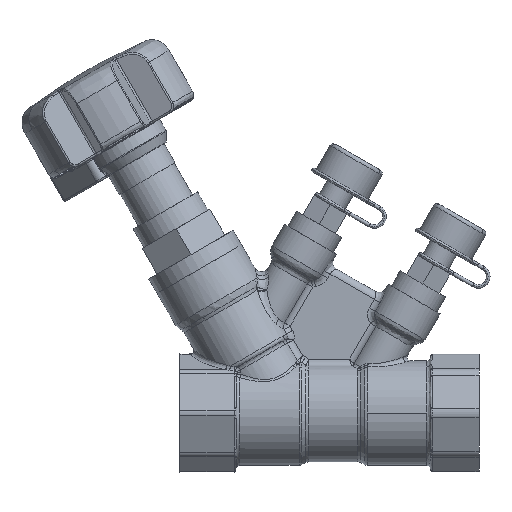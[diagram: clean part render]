
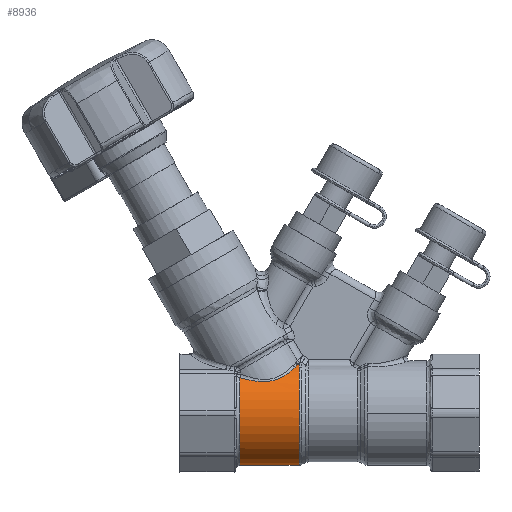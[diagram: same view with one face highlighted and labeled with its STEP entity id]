
A CAD part, left-side view. The second image highlights one B-rep face of the part: STEP entity #8936.
In plain terms, the highlighted cylindrical face has radius 14 mm (diameter 28 mm), a partial arc.
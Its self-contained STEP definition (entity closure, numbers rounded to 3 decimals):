
#1501 = ORIENTED_EDGE ( 'NONE', *, *, #33289, .T. ) ;
#2157 = CARTESIAN_POINT ( 'NONE',  ( -11.216, 56.946, 8.379 ) ) ;
#2591 = CARTESIAN_POINT ( 'NONE',  ( -6.457, 48.932, 12.426 ) ) ;
#2725 = CARTESIAN_POINT ( 'NONE',  ( -5.37, 48.413, 12.929 ) ) ;
#2807 = AXIS2_PLACEMENT_3D ( 'NONE', #35132, #31795, #16026 ) ;
#3754 = CIRCLE ( 'NONE', #15660, 14. ) ;
#4248 = CARTESIAN_POINT ( 'NONE',  ( 0., 48.134, 0. ) ) ;
#4896 = ORIENTED_EDGE ( 'NONE', *, *, #40061, .T. ) ;
#5321 = CARTESIAN_POINT ( 'NONE',  ( -10.578, 53.497, 9.186 ) ) ;
#6035 = CARTESIAN_POINT ( 'NONE',  ( -5.37, 48.413, 12.929 ) ) ;
#6283 = ORIENTED_EDGE ( 'NONE', *, *, #18026, .F. ) ;
#7443 = DIRECTION ( 'NONE',  ( -0.479, 0., 0.878 ) ) ;
#8120 = EDGE_LOOP ( 'NONE', ( #19000, #1501, #6283, #4896, #16794, #23539, #16220 ) ) ;
#8534 = CARTESIAN_POINT ( 'NONE',  ( -9.436, 51.362, 10.389 ) ) ;
#8846 = CARTESIAN_POINT ( 'NONE',  ( -5.131, 48.313, 13.028 ) ) ;
#8936 = ADVANCED_FACE ( 'NONE', ( #30244 ), #37732, .T. ) ;
#8970 = CARTESIAN_POINT ( 'NONE',  ( -6.712, 49.082, 12.286 ) ) ;
#9531 = VERTEX_POINT ( 'NONE', #13286 ) ;
#10174 = CIRCLE ( 'NONE', #15462, 14. ) ;
#10222 = CARTESIAN_POINT ( 'NONE',  ( 0., 64., -14. ) ) ;
#11748 = CARTESIAN_POINT ( 'NONE',  ( -7.873, 49.833, 11.604 ) ) ;
#12024 = EDGE_CURVE ( 'NONE', #37049, #35592, #3754, .T. ) ;
#12865 = B_SPLINE_CURVE_WITH_KNOTS ( 'NONE', 5,
 ( #30718, #33908, #37124, #18029, #40356, #21226, #2157, #24433, #5321, #27617, #8534, #30852, #11748, #34051, #14946 ),
 .UNSPECIFIED., .F., .F.,
 ( 6, 3, 3, 3, 6 ),
 ( 0., 0.272, 0.509, 0.779, 1. ),
 .UNSPECIFIED. ) ;
#13245 = CARTESIAN_POINT ( 'NONE',  ( -4.639, 48.134, 13.209 ) ) ;
#13286 = CARTESIAN_POINT ( 'NONE',  ( -6.712, 48.134, 12.286 ) ) ;
#14460 = LINE ( 'NONE', #26736, #21958 ) ;
#14514 = CIRCLE ( 'NONE', #28521, 14. ) ;
#14946 = CARTESIAN_POINT ( 'NONE',  ( -6.712, 49.082, 12.286 ) ) ;
#15000 = B_SPLINE_CURVE_WITH_KNOTS ( 'NONE', 5,
 ( #8970, #2591, #18618, #40929, #21809, #2725 ),
 .UNSPECIFIED., .F., .F.,
 ( 6, 6 ),
 ( 0., 1. ),
 .UNSPECIFIED. ) ;
#15462 = AXIS2_PLACEMENT_3D ( 'NONE', #35085, #15975, #38315 ) ;
#15660 = AXIS2_PLACEMENT_3D ( 'NONE', #18876, #41199, #22073 ) ;
#15975 = DIRECTION ( 'NONE',  ( 0., 1., 0. ) ) ;
#15976 = CARTESIAN_POINT ( 'NONE',  ( -6.712, 49.082, 12.286 ) ) ;
#16026 = DIRECTION ( 'NONE',  ( 0., 0., -1. ) ) ;
#16220 = ORIENTED_EDGE ( 'NONE', *, *, #27431, .F. ) ;
#16794 = ORIENTED_EDGE ( 'NONE', *, *, #17904, .F. ) ;
#17904 = EDGE_CURVE ( 'NONE', #33464, #38264, #39315, .T. ) ;
#18026 = EDGE_CURVE ( 'NONE', #9531, #24209, #14514, .T. ) ;
#18029 = CARTESIAN_POINT ( 'NONE',  ( -10.904, 61.327, 8.785 ) ) ;
#18618 = CARTESIAN_POINT ( 'NONE',  ( -6.195, 48.79, 12.56 ) ) ;
#18876 = CARTESIAN_POINT ( 'NONE',  ( 0., 64., 0. ) ) ;
#18888 = CARTESIAN_POINT ( 'NONE',  ( -4.888, 48.22, 13.122 ) ) ;
#19000 = ORIENTED_EDGE ( 'NONE', *, *, #12024, .F. ) ;
#21226 = CARTESIAN_POINT ( 'NONE',  ( -11.229, 57.79, 8.361 ) ) ;
#21809 = CARTESIAN_POINT ( 'NONE',  ( -5.651, 48.53, 12.813 ) ) ;
#21958 = VECTOR ( 'NONE', #29964, 1000. ) ;
#22073 = DIRECTION ( 'NONE',  ( -0.479, 0., 0.878 ) ) ;
#23539 = ORIENTED_EDGE ( 'NONE', *, *, #34163, .F. ) ;
#24209 = VERTEX_POINT ( 'NONE', #26742 ) ;
#24433 = CARTESIAN_POINT ( 'NONE',  ( -11.053, 55.152, 8.602 ) ) ;
#26538 = DIRECTION ( 'NONE',  ( 0., -1., 0. ) ) ;
#26736 = CARTESIAN_POINT ( 'NONE',  ( 0., 64., -14. ) ) ;
#26742 = CARTESIAN_POINT ( 'NONE',  ( 0., 48.134, -14. ) ) ;
#27431 = EDGE_CURVE ( 'NONE', #35592, #33685, #12865, .T. ) ;
#27617 = CARTESIAN_POINT ( 'NONE',  ( -10.227, 52.689, 9.588 ) ) ;
#27710 = CARTESIAN_POINT ( 'NONE',  ( -5.37, 48.413, 12.929 ) ) ;
#28521 = AXIS2_PLACEMENT_3D ( 'NONE', #4248, #26538, #7443 ) ;
#29964 = DIRECTION ( 'NONE',  ( 0., -1., 0. ) ) ;
#30244 = FACE_OUTER_BOUND ( 'NONE', #8120, .T. ) ;
#30718 = CARTESIAN_POINT ( 'NONE',  ( -10.267, 64., 9.518 ) ) ;
#30852 = CARTESIAN_POINT ( 'NONE',  ( -8.392, 50.276, 11.232 ) ) ;
#31795 = DIRECTION ( 'NONE',  ( 0., -1., 0. ) ) ;
#33289 = EDGE_CURVE ( 'NONE', #37049, #24209, #14460, .T. ) ;
#33464 = VERTEX_POINT ( 'NONE', #27710 ) ;
#33685 = VERTEX_POINT ( 'NONE', #15976 ) ;
#33908 = CARTESIAN_POINT ( 'NONE',  ( -10.515, 63.128, 9.25 ) ) ;
#34045 = CARTESIAN_POINT ( 'NONE',  ( -10.267, 64., 9.518 ) ) ;
#34051 = CARTESIAN_POINT ( 'NONE',  ( -7.312, 49.435, 11.958 ) ) ;
#34163 = EDGE_CURVE ( 'NONE', #33685, #33464, #15000, .T. ) ;
#35085 = CARTESIAN_POINT ( 'NONE',  ( 0., 48.134, 0. ) ) ;
#35132 = CARTESIAN_POINT ( 'NONE',  ( 0., 64., 0. ) ) ;
#35592 = VERTEX_POINT ( 'NONE', #34045 ) ;
#37049 = VERTEX_POINT ( 'NONE', #10222 ) ;
#37124 = CARTESIAN_POINT ( 'NONE',  ( -10.728, 62.238, 9.003 ) ) ;
#37732 = CYLINDRICAL_SURFACE ( 'NONE', #2807, 14. ) ;
#38264 = VERTEX_POINT ( 'NONE', #13245 ) ;
#38315 = DIRECTION ( 'NONE',  ( -0.479, 0., 0.878 ) ) ;
#39315 = B_SPLINE_CURVE_WITH_KNOTS ( 'NONE', 3,
 ( #6035, #8846, #18888, #41212 ),
 .UNSPECIFIED., .F., .F.,
 ( 4, 4 ),
 ( 0., 1. ),
 .UNSPECIFIED. ) ;
#40061 = EDGE_CURVE ( 'NONE', #9531, #38264, #10174, .T. ) ;
#40356 = CARTESIAN_POINT ( 'NONE',  ( -11.158, 59.589, 8.458 ) ) ;
#40929 = CARTESIAN_POINT ( 'NONE',  ( -5.926, 48.656, 12.689 ) ) ;
#41199 = DIRECTION ( 'NONE',  ( 0., 1., 0. ) ) ;
#41212 = CARTESIAN_POINT ( 'NONE',  ( -4.639, 48.134, 13.209 ) ) ;
